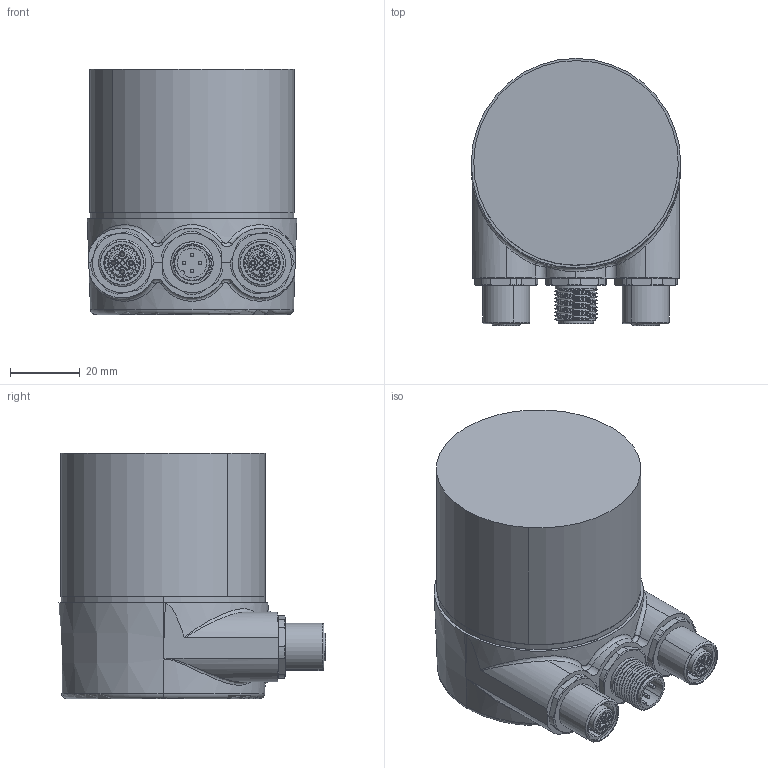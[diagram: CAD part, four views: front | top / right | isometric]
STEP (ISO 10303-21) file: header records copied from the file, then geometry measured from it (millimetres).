
FILE_DESCRIPTION (( 'STEP AP214' ), '1' );
FILE_NAME ('Drawing-XC-5-EE-705-SWS-EEREER-Y-PRM-N_temporary.STEP', '2020-12-23T14:28:37', ( '' ), ( '' ), 'SwSTEP 2.0', 'SolidWorks 2019', '' );
FILE_SCHEMA (( 'AUTOMOTIVE_DESIGN' ));
Length unit declared in the file: millimetre
Products named in the file (1): Drawing-XC-5-EE-705-SWS-EEREER-Y-PRM-N_temporary
Bounding box: 60 x 76.5 x 70.25 mm (x, y, z)
Volume: 207202 mm3; surface area: 44903.5 mm2
Topology: 11 solids, 11 shells, 1285 faces, 3339 edges, 2138 vertices
Faces by surface type: cylinder 617, plane 262, cone 249, bspline 78, torus 75, sphere 4
Entity records: 62559 total; most frequent: CARTESIAN_POINT 17772, ORIENTED_EDGE 6638, DIRECTION 6272, EDGE_CURVE 3319, AXIS2_PLACEMENT_3D 2599, VERTEX_POINT 2130, EDGE_LOOP 1393, CIRCLE 1391
